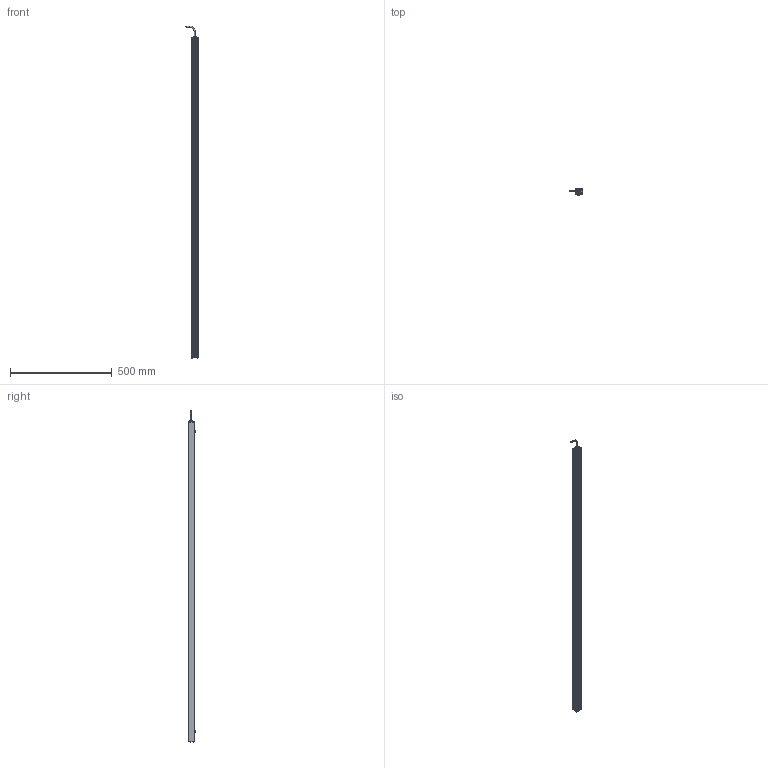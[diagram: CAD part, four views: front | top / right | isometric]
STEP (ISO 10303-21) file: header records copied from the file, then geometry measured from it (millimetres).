
FILE_DESCRIPTION (( 'STEP AP214' ), '1' );
FILE_NAME ('AL150XXXX_AL150360.stp', '2021-04-29T15:41:50', ( '' ), ( '' ), 'SwSTEP 2.0', 'SolidWorks 2018', '' );
FILE_SCHEMA (( 'AUTOMOTIVE_DESIGN' ));
Length unit declared in the file: inch
Products named in the file (12): CHM6x8_91460A312; 116-02-006; 092408_TRUNCATED; 093145_93701A253; Part1^AL150XXXX; 150-01-005-XXX_150-01-005-360; 150-03-006-XXXX_150-03-006-360; 116-02-007; HN-M6_90592A016; AL150XXXX_AL150360; Part2^AL150XXXX; 1157 (no strap)
Assembly tree (18 placements, depth 2):
  Part1^AL150XXXX
  AL150XXXX_AL150360
    150-01-005-XXX_150-01-005-360
    116-02-006
    093145_93701A253  x8
    HN-M6_90592A016  x2
    CHM6x8_91460A312  x2
    150-03-006-XXXX_150-03-006-360
    116-02-007
    1157 (no strap)
    092408_TRUNCATED
  Part2^AL150XXXX
Bounding box: 60.68 x 33.84 x 1630.35 mm (x, y, z)
Volume: 487703.2 mm3; surface area: 515342.3 mm2
Topology: 26 solids, 26 shells, 1306 faces, 3436 edges, 2127 vertices
Faces by surface type: cylinder 805, cone 249, plane 153, torus 59, bspline 32, sphere 8
Entity records: 18285 total; most frequent: CARTESIAN_POINT 6069, ORIENTED_EDGE 2496, DIRECTION 2311, EDGE_CURVE 1248, AXIS2_PLACEMENT_3D 881, VERTEX_POINT 800, LINE 549, VECTOR 549
